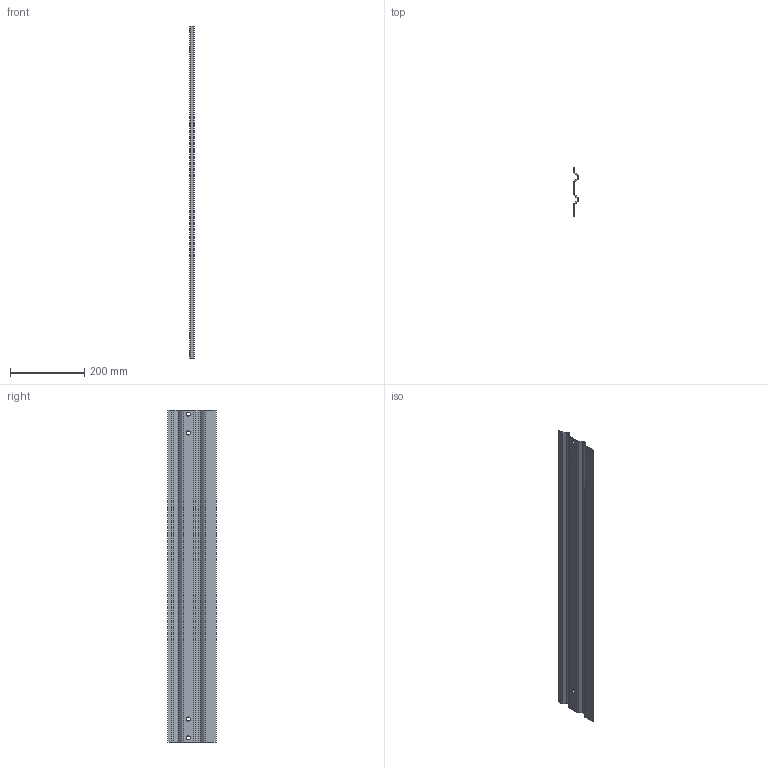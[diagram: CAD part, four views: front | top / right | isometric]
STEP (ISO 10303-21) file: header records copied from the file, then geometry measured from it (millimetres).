
FILE_DESCRIPTION((''),'2;1');
FILE_NAME('S:\Användarkataloger\AndreasA\Mina Inventor filer\Räcken\STEP\sparklist_k130_modul_900.stp','2010-09-07T13:49:52',('AndreasA'),(''),'Autodesk Inventor 2011','Autodesk Inventor 2011','');
FILE_SCHEMA(('AUTOMOTIVE_DESIGN { 1 0 10303 214 1 1 1 1 }'));
Length unit declared in the file: millimetre
Products named in the file (1): sparklist_k130_modul_900
Bounding box: 13.47 x 130 x 896 mm (x, y, z)
Volume: 326255.3 mm3; surface area: 266560.2 mm2
Topology: 1 solids, 1 shells, 34 faces, 100 edges, 68 vertices
Faces by surface type: plane 18, cylinder 16
Full cylindrical faces by diameter (mm): 11 x4
Entity records: 1134 total; most frequent: DIRECTION 194, CARTESIAN_POINT 191, ORIENTED_EDGE 184, EDGE_CURVE 92, AXIS2_PLACEMENT_3D 67, VERTEX_POINT 64, VECTOR 60, LINE 60
